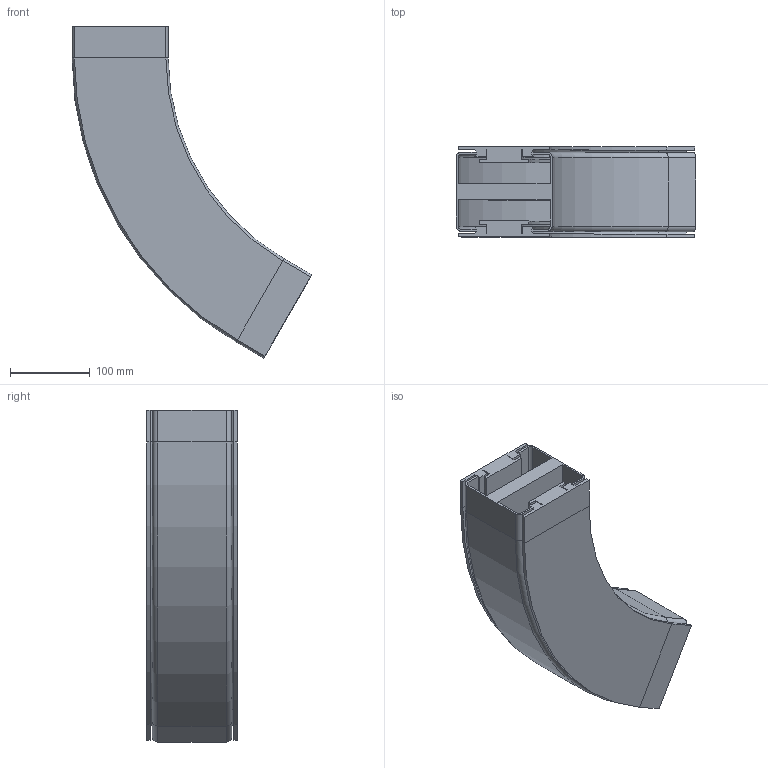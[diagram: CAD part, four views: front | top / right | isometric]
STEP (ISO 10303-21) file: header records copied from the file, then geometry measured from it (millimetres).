
FILE_DESCRIPTION (( 'STEP AP214' ), '1' );
FILE_NAME ('VC.120 Horizontale bochtsectie.R350 60.STEP', '2017-02-08T07:48:19', ( '' ), ( '' ), 'SwSTEP 2.0', 'SolidWorks 2016', '' );
FILE_SCHEMA (( 'AUTOMOTIVE_DESIGN' ));
Length unit declared in the file: millimetre
Products named in the file (1): VC.120 Horizontale bochtsectie.R350 60
Bounding box: 299.64 x 113 x 415.07 mm (x, y, z)
Volume: 2632735 mm3; surface area: 648397.6 mm2
Topology: 1 solids, 1 shells, 206 faces, 476 edges, 272 vertices
Faces by surface type: plane 152, cylinder 38, cone 8, torus 8
Entity records: 5674 total; most frequent: DIRECTION 990, CARTESIAN_POINT 955, ORIENTED_EDGE 952, EDGE_CURVE 476, LINE 376, VECTOR 376, AXIS2_PLACEMENT_3D 307, VERTEX_POINT 272
